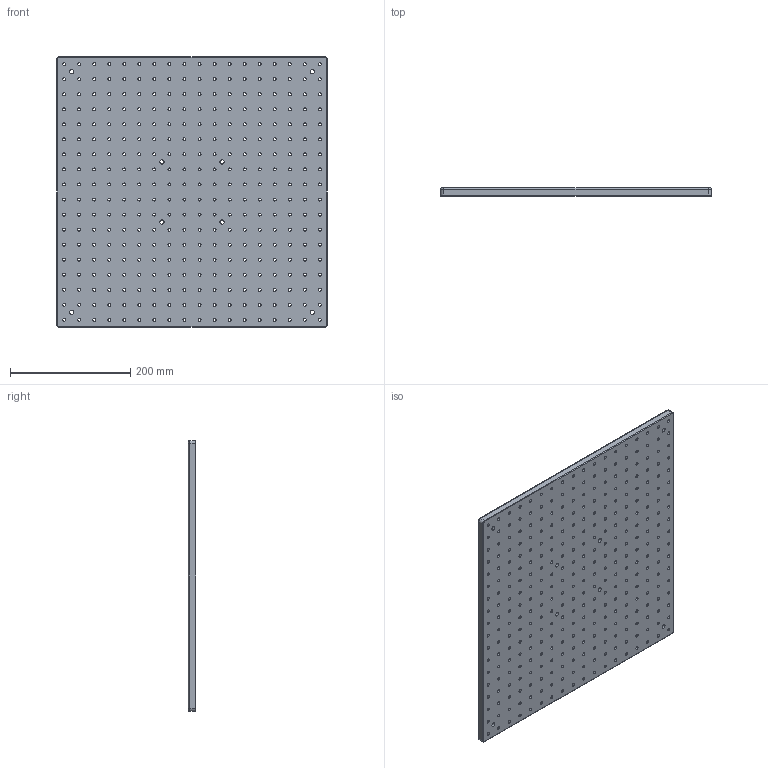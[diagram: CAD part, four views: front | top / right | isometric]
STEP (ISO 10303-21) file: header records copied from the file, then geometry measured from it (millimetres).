
FILE_DESCRIPTION (( 'STEP AP203' ), '1' );
FILE_NAME ('M-SAB-4545-13.step', '2017-01-10T01:16:07', ( '¦K¬P' ), ( '' ), 'SwSTEP 2.0', 'SolidWorks 2012', '' );
FILE_SCHEMA (( 'CONFIG_CONTROL_DESIGN' ));
Length unit declared in the file: millimetre
Products named in the file (1): M-SAB-4545-13
Bounding box: 450 x 13 x 450 mm (x, y, z)
Volume: 2538784.9 mm3; surface area: 480918.7 mm2
Topology: 1 solids, 1 shells, 374 faces, 1076 edges, 712 vertices
Faces by surface type: cylinder 352, plane 14, torus 8
Full cylindrical faces by diameter (mm): 5 x324, 7 x8, 11 x8
Entity records: 12389 total; most frequent: DIRECTION 2198, CARTESIAN_POINT 1823, ORIENTED_EDGE 1472, EDGE_LOOP 1386, AXIS2_PLACEMENT_3D 1087, EDGE_CURVE 736, FACE_OUTER_BOUND 714, VERTEX_POINT 712
